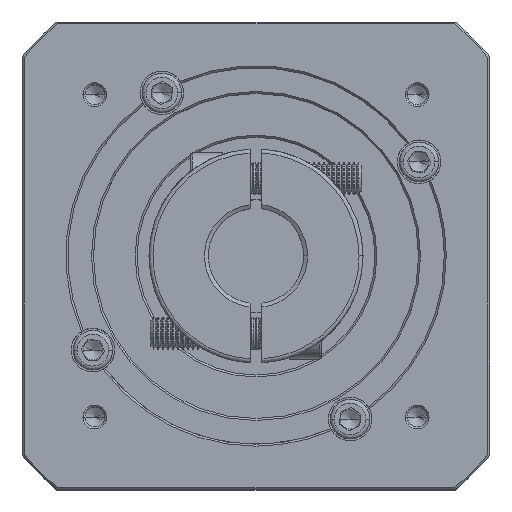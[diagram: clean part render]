
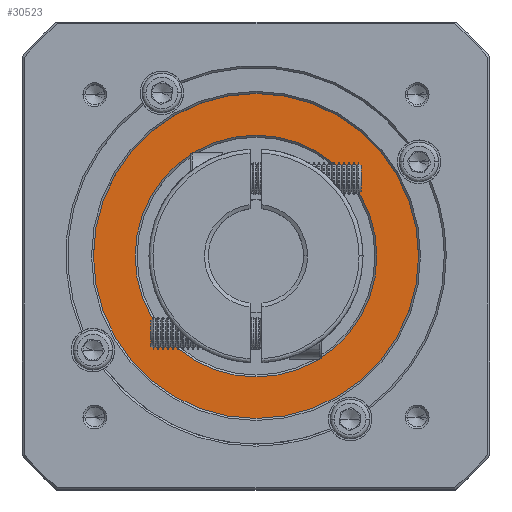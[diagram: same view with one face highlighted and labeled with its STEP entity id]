
A CAD part, top view. The second image highlights one B-rep face of the part: STEP entity #30523.
In plain terms, the highlighted planar face has unit normal (0, 0, 1).
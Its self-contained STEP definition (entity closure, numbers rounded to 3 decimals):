
#2297 = ORIENTED_EDGE ( 'NONE', *, *, #91320, .T. ) ;
#9082 = CARTESIAN_POINT ( 'NONE',  ( -62.309, -108.745, -24.626 ) ) ;
#10587 = EDGE_CURVE ( 'NONE', #86606, #126751, #69845, .T. ) ;
#12674 = CARTESIAN_POINT ( 'NONE',  ( -21.309, -108.745, -24.626 ) ) ;
#13534 = CARTESIAN_POINT ( 'NONE',  ( -62.309, -108.745, -24.626 ) ) ;
#23148 = CARTESIAN_POINT ( 'NONE',  ( -62.309, -108.745, -24.626 ) ) ;
#25327 = EDGE_CURVE ( 'NONE', #36212, #79119, #81254, .T. ) ;
#28037 = FACE_BOUND ( 'NONE', #107946, .T. ) ;
#29257 = ORIENTED_EDGE ( 'NONE', *, *, #10587, .T. ) ;
#29938 = AXIS2_PLACEMENT_3D ( 'NONE', #9082, #126255, #56818 ) ;
#30523 = ADVANCED_FACE ( 'NONE', ( #58773, #28037 ), #120355, .T. ) ;
#33060 = DIRECTION ( 'NONE',  ( 0., 0., 1. ) ) ;
#33689 = DIRECTION ( 'NONE',  ( 1., 0., 0. ) ) ;
#36145 = CIRCLE ( 'NONE', #115188, 41. ) ;
#36212 = VERTEX_POINT ( 'NONE', #48789 ) ;
#48789 = CARTESIAN_POINT ( 'NONE',  ( -31.809, -108.745, -24.626 ) ) ;
#53514 = CARTESIAN_POINT ( 'NONE',  ( -62.309, -108.745, -24.626 ) ) ;
#56818 = DIRECTION ( 'NONE',  ( 1., 0., 0. ) ) ;
#58773 = FACE_OUTER_BOUND ( 'NONE', #104520, .T. ) ;
#61514 = DIRECTION ( 'NONE',  ( 1., 0., 0. ) ) ;
#62201 = AXIS2_PLACEMENT_3D ( 'NONE', #53514, #73418, #72591 ) ;
#63529 = EDGE_CURVE ( 'NONE', #126751, #86606, #36145, .T. ) ;
#69845 = CIRCLE ( 'NONE', #70038, 41. ) ;
#70038 = AXIS2_PLACEMENT_3D ( 'NONE', #23148, #33060, #61514 ) ;
#72223 = ORIENTED_EDGE ( 'NONE', *, *, #25327, .T. ) ;
#72591 = DIRECTION ( 'NONE',  ( 1., 0., 0. ) ) ;
#73418 = DIRECTION ( 'NONE',  ( 0., 0., -1. ) ) ;
#76290 = DIRECTION ( 'NONE',  ( 0., 0., 1. ) ) ;
#79119 = VERTEX_POINT ( 'NONE', #103493 ) ;
#79671 = CIRCLE ( 'NONE', #29938, 30.5 ) ;
#81254 = CIRCLE ( 'NONE', #62201, 30.5 ) ;
#86606 = VERTEX_POINT ( 'NONE', #93331 ) ;
#90363 = AXIS2_PLACEMENT_3D ( 'NONE', #13534, #112116, #33689 ) ;
#91320 = EDGE_CURVE ( 'NONE', #79119, #36212, #79671, .T. ) ;
#93331 = CARTESIAN_POINT ( 'NONE',  ( -103.309, -108.745, -24.626 ) ) ;
#95628 = CARTESIAN_POINT ( 'NONE',  ( -62.309, -108.745, -24.626 ) ) ;
#99002 = ORIENTED_EDGE ( 'NONE', *, *, #63529, .T. ) ;
#103493 = CARTESIAN_POINT ( 'NONE',  ( -92.809, -108.745, -24.626 ) ) ;
#104520 = EDGE_LOOP ( 'NONE', ( #99002, #29257 ) ) ;
#107946 = EDGE_LOOP ( 'NONE', ( #72223, #2297 ) ) ;
#112116 = DIRECTION ( 'NONE',  ( 0., 0., 1. ) ) ;
#115188 = AXIS2_PLACEMENT_3D ( 'NONE', #95628, #76290, #115410 ) ;
#115410 = DIRECTION ( 'NONE',  ( 1., 0., 0. ) ) ;
#120355 = PLANE ( 'NONE',  #90363 ) ;
#126255 = DIRECTION ( 'NONE',  ( 0., 0., -1. ) ) ;
#126751 = VERTEX_POINT ( 'NONE', #12674 ) ;
